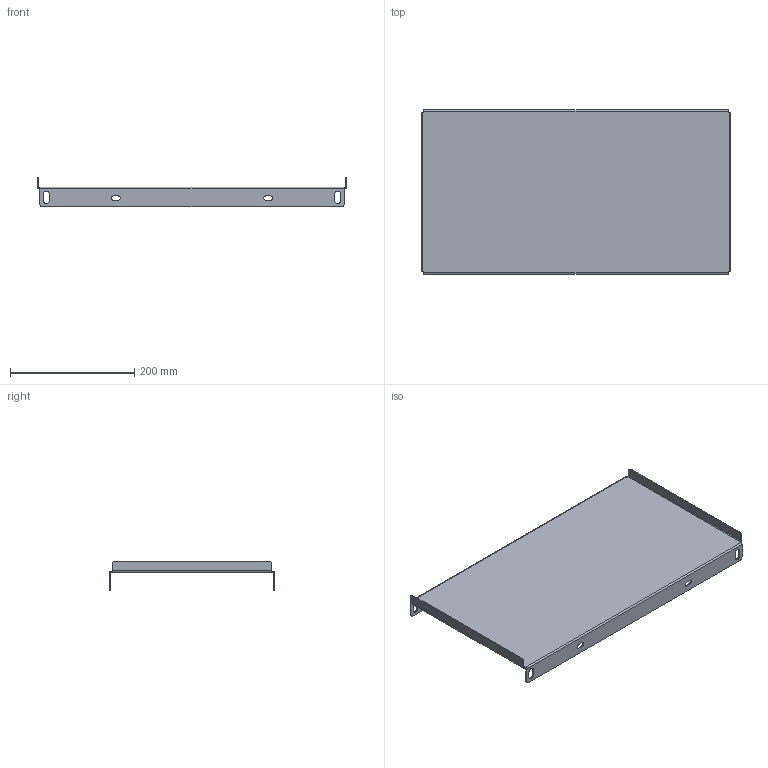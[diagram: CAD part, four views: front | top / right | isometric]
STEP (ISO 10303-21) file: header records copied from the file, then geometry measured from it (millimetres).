
FILE_DESCRIPTION (( 'STEP AP203' ), '1' );
FILE_NAME ('EUPU-060030.STEP', '2015-04-22T09:24:04', ( 'Admin' ), ( '' ), 'SwSTEP 2.0', 'SolidWorks 2014', '' );
FILE_SCHEMA (( 'CONFIG_CONTROL_DESIGN' ));
Length unit declared in the file: millimetre
Products named in the file (1): EUPU-060030
Bounding box: 498 x 265 x 47.5 mm (x, y, z)
Volume: 330056.6 mm3; surface area: 337633.4 mm2
Topology: 1 solids, 1 shells, 82 faces, 240 edges, 160 vertices
Faces by surface type: plane 46, cylinder 36
Entity records: 2845 total; most frequent: CARTESIAN_POINT 483, ORIENTED_EDGE 480, DIRECTION 478, EDGE_CURVE 240, VECTOR 168, LINE 168, VERTEX_POINT 160, AXIS2_PLACEMENT_3D 155
